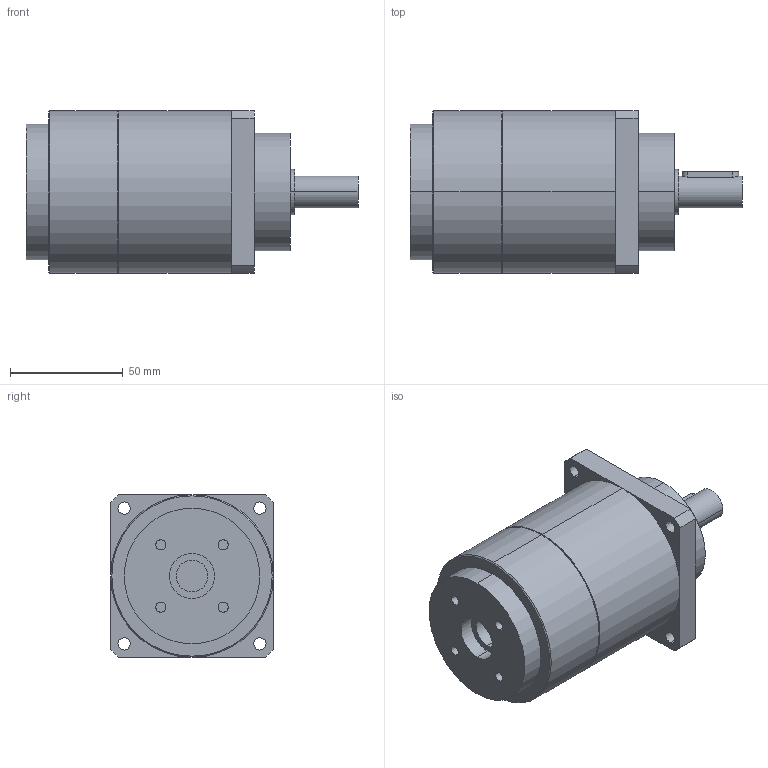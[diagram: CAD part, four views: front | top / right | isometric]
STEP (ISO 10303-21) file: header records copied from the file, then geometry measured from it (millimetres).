
FILE_DESCRIPTION(('CoCreate Modeling STEP Export'),'2;1');
FILE_NAME('GPT75_ig-9-12-16-20-25-28-35-40-50-70-100_14_B5T_14_P14.stp','2014-08-27T13:37:53',(''),(''),'CoCreate Modeling STEP processor for AP214 (Solid Model)','CoCreate Modeling 16.00C 25-Feb-2009 (C) Parametric Technology GmbH','');
FILE_SCHEMA(('AUTOMOTIVE_DESIGN { 1 0 10303 214 1 1 1 1 }'));
Length unit declared in the file: millimetre
Products named in the file (2): GPT75_ig-9-12-16-20-25-28-35-40-50-70-100_14_B5T_14_P14
Assembly tree (1 placements, depth 2):
  GPT75_ig-9-12-16-20-25-28-35-40-50-70-100_14_B5T_14_P14
    GPT75_ig-9-12-16-20-25-28-35-40-50-70-100_14_B5T_14_P14
Bounding box: 147 x 72 x 72 mm (x, y, z)
Volume: 439997.8 mm3; surface area: 40589.7 mm2
Topology: 1 solids, 1 shells, 69 faces, 165 edges, 110 vertices
Faces by surface type: cylinder 40, plane 25, cone 4
Entity records: 2146 total; most frequent: CARTESIAN_POINT 661, ORIENTED_EDGE 330, DIRECTION 260, EDGE_CURVE 165, VERTEX_POINT 110, AXIS2_PLACEMENT_3D 97, EDGE_LOOP 89, FACE_OUTER_BOUND 69
